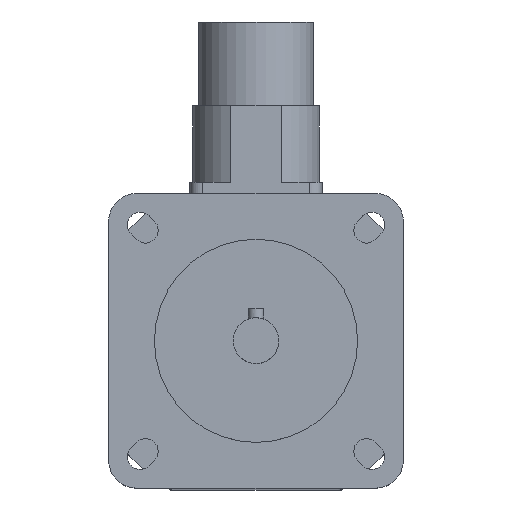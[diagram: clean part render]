
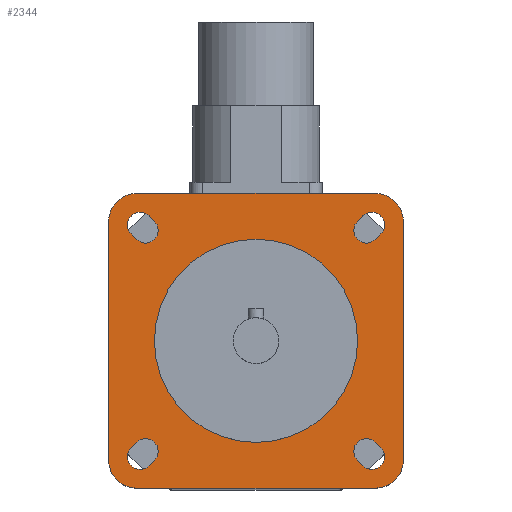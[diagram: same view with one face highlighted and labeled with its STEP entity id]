
A CAD part, top view. The second image highlights one B-rep face of the part: STEP entity #2344.
In plain terms, the highlighted planar face has unit normal (0, 0, 1).
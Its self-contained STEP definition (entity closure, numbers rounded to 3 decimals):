
#28=FACE_BOUND('',#421,.T.);
#29=FACE_BOUND('',#422,.T.);
#30=FACE_BOUND('',#423,.T.);
#31=FACE_BOUND('',#424,.T.);
#32=FACE_BOUND('',#425,.T.);
#46=CIRCLE('',#2435,20.);
#83=CIRCLE('',#2499,2.5);
#87=CIRCLE('',#2506,2.5);
#88=CIRCLE('',#2509,2.5);
#89=CIRCLE('',#2512,2.5);
#99=CIRCLE('',#2527,2.5);
#100=CIRCLE('',#2530,2.5);
#101=CIRCLE('',#2533,2.5);
#102=CIRCLE('',#2536,2.5);
#103=CIRCLE('',#2538,5.5);
#104=CIRCLE('',#2540,5.5);
#105=CIRCLE('',#2542,5.5);
#106=CIRCLE('',#2544,5.5);
#281=FACE_OUTER_BOUND('',#420,.T.);
#420=EDGE_LOOP('',(#1806,#1807,#1808,#1809,#1810,#1811,#1812,#1813));
#421=EDGE_LOOP('',(#1814));
#422=EDGE_LOOP('',(#1815,#1816,#1817,#1818));
#423=EDGE_LOOP('',(#1819,#1820,#1821,#1822));
#424=EDGE_LOOP('',(#1823,#1824,#1825,#1826));
#425=EDGE_LOOP('',(#1827,#1828,#1829,#1830));
#564=LINE('',#3642,#783);
#572=LINE('',#3666,#791);
#576=LINE('',#3676,#795);
#580=LINE('',#3686,#799);
#596=LINE('',#3737,#815);
#598=LINE('',#3743,#817);
#600=LINE('',#3749,#819);
#602=LINE('',#3755,#821);
#611=LINE('',#3783,#830);
#612=LINE('',#3784,#831);
#613=LINE('',#3785,#832);
#614=LINE('',#3786,#833);
#783=VECTOR('',#2885,1.5);
#791=VECTOR('',#2907,1.5);
#795=VECTOR('',#2917,1.5);
#799=VECTOR('',#2927,1.5);
#815=VECTOR('',#2973,1.5);
#817=VECTOR('',#2981,1.5);
#819=VECTOR('',#2989,1.5);
#821=VECTOR('',#2997,1.5);
#830=VECTOR('',#3028,47.);
#831=VECTOR('',#3029,47.);
#832=VECTOR('',#3030,47.);
#833=VECTOR('',#3031,47.);
#956=VERTEX_POINT('',#3463);
#1021=VERTEX_POINT('',#3639);
#1022=VERTEX_POINT('',#3641);
#1023=VERTEX_POINT('',#3645);
#1030=VERTEX_POINT('',#3663);
#1031=VERTEX_POINT('',#3665);
#1032=VERTEX_POINT('',#3669);
#1033=VERTEX_POINT('',#3673);
#1034=VERTEX_POINT('',#3675);
#1035=VERTEX_POINT('',#3679);
#1036=VERTEX_POINT('',#3683);
#1037=VERTEX_POINT('',#3685);
#1038=VERTEX_POINT('',#3689);
#1057=VERTEX_POINT('',#3735);
#1058=VERTEX_POINT('',#3741);
#1059=VERTEX_POINT('',#3747);
#1060=VERTEX_POINT('',#3753);
#1061=VERTEX_POINT('',#3759);
#1062=VERTEX_POINT('',#3761);
#1063=VERTEX_POINT('',#3765);
#1064=VERTEX_POINT('',#3767);
#1065=VERTEX_POINT('',#3771);
#1066=VERTEX_POINT('',#3773);
#1067=VERTEX_POINT('',#3777);
#1068=VERTEX_POINT('',#3779);
#1190=EDGE_CURVE('',#956,#956,#46,.T.);
#1276=EDGE_CURVE('',#1022,#1021,#564,.T.);
#1279=EDGE_CURVE('',#1021,#1023,#83,.T.);
#1288=EDGE_CURVE('',#1031,#1030,#572,.T.);
#1291=EDGE_CURVE('',#1030,#1032,#87,.T.);
#1293=EDGE_CURVE('',#1034,#1033,#576,.T.);
#1296=EDGE_CURVE('',#1033,#1035,#88,.T.);
#1298=EDGE_CURVE('',#1037,#1036,#580,.T.);
#1301=EDGE_CURVE('',#1036,#1038,#89,.T.);
#1324=EDGE_CURVE('',#1035,#1057,#596,.T.);
#1325=EDGE_CURVE('',#1057,#1034,#99,.T.);
#1327=EDGE_CURVE('',#1032,#1058,#598,.T.);
#1328=EDGE_CURVE('',#1058,#1031,#100,.T.);
#1330=EDGE_CURVE('',#1038,#1059,#600,.T.);
#1331=EDGE_CURVE('',#1059,#1037,#101,.T.);
#1333=EDGE_CURVE('',#1023,#1060,#602,.T.);
#1334=EDGE_CURVE('',#1060,#1022,#102,.T.);
#1336=EDGE_CURVE('',#1062,#1061,#103,.T.);
#1339=EDGE_CURVE('',#1064,#1063,#104,.T.);
#1342=EDGE_CURVE('',#1066,#1065,#105,.T.);
#1345=EDGE_CURVE('',#1068,#1067,#106,.T.);
#1347=EDGE_CURVE('',#1061,#1068,#611,.T.);
#1348=EDGE_CURVE('',#1067,#1066,#612,.T.);
#1349=EDGE_CURVE('',#1065,#1064,#613,.T.);
#1350=EDGE_CURVE('',#1063,#1062,#614,.T.);
#1806=ORIENTED_EDGE('',*,*,#1347,.T.);
#1807=ORIENTED_EDGE('',*,*,#1345,.T.);
#1808=ORIENTED_EDGE('',*,*,#1348,.T.);
#1809=ORIENTED_EDGE('',*,*,#1342,.T.);
#1810=ORIENTED_EDGE('',*,*,#1349,.T.);
#1811=ORIENTED_EDGE('',*,*,#1339,.T.);
#1812=ORIENTED_EDGE('',*,*,#1350,.T.);
#1813=ORIENTED_EDGE('',*,*,#1336,.T.);
#1814=ORIENTED_EDGE('',*,*,#1190,.T.);
#1815=ORIENTED_EDGE('',*,*,#1324,.T.);
#1816=ORIENTED_EDGE('',*,*,#1325,.T.);
#1817=ORIENTED_EDGE('',*,*,#1293,.T.);
#1818=ORIENTED_EDGE('',*,*,#1296,.T.);
#1819=ORIENTED_EDGE('',*,*,#1327,.T.);
#1820=ORIENTED_EDGE('',*,*,#1328,.T.);
#1821=ORIENTED_EDGE('',*,*,#1288,.T.);
#1822=ORIENTED_EDGE('',*,*,#1291,.T.);
#1823=ORIENTED_EDGE('',*,*,#1330,.T.);
#1824=ORIENTED_EDGE('',*,*,#1331,.T.);
#1825=ORIENTED_EDGE('',*,*,#1298,.T.);
#1826=ORIENTED_EDGE('',*,*,#1301,.T.);
#1827=ORIENTED_EDGE('',*,*,#1333,.T.);
#1828=ORIENTED_EDGE('',*,*,#1334,.T.);
#1829=ORIENTED_EDGE('',*,*,#1276,.T.);
#1830=ORIENTED_EDGE('',*,*,#1279,.T.);
#2248=PLANE('',#2545);
#2344=ADVANCED_FACE('',(#281,#28,#29,#30,#31,#32),#2248,.T.);
#2435=AXIS2_PLACEMENT_3D('',#3464,#2710,#2711);
#2499=AXIS2_PLACEMENT_3D('',#3647,#2890,#2891);
#2506=AXIS2_PLACEMENT_3D('',#3671,#2912,#2913);
#2509=AXIS2_PLACEMENT_3D('',#3681,#2922,#2923);
#2512=AXIS2_PLACEMENT_3D('',#3691,#2932,#2933);
#2527=AXIS2_PLACEMENT_3D('',#3739,#2976,#2977);
#2530=AXIS2_PLACEMENT_3D('',#3745,#2984,#2985);
#2533=AXIS2_PLACEMENT_3D('',#3751,#2992,#2993);
#2536=AXIS2_PLACEMENT_3D('',#3757,#3000,#3001);
#2538=AXIS2_PLACEMENT_3D('',#3762,#3005,#3006);
#2540=AXIS2_PLACEMENT_3D('',#3768,#3011,#3012);
#2542=AXIS2_PLACEMENT_3D('',#3774,#3017,#3018);
#2544=AXIS2_PLACEMENT_3D('',#3780,#3023,#3024);
#2545=AXIS2_PLACEMENT_3D('',#3782,#3026,#3027);
#2710=DIRECTION('center_axis',(0.,0.,-1.));
#2711=DIRECTION('ref_axis',(-1.,0.,0.));
#2885=DIRECTION('',(-0.707,-0.707,0.));
#2890=DIRECTION('center_axis',(0.,0.,-1.));
#2891=DIRECTION('ref_axis',(0.707,-0.707,0.));
#2907=DIRECTION('',(-0.707,0.707,0.));
#2912=DIRECTION('center_axis',(0.,0.,-1.));
#2913=DIRECTION('ref_axis',(-0.707,-0.707,0.));
#2917=DIRECTION('',(-0.707,-0.707,0.));
#2922=DIRECTION('center_axis',(0.,0.,-1.));
#2923=DIRECTION('ref_axis',(0.707,-0.707,0.));
#2927=DIRECTION('',(-0.707,0.707,0.));
#2932=DIRECTION('center_axis',(0.,0.,-1.));
#2933=DIRECTION('ref_axis',(-0.707,-0.707,0.));
#2973=DIRECTION('',(0.707,0.707,0.));
#2976=DIRECTION('center_axis',(0.,0.,-1.));
#2977=DIRECTION('ref_axis',(-0.707,0.707,0.));
#2981=DIRECTION('',(0.707,-0.707,0.));
#2984=DIRECTION('center_axis',(0.,0.,-1.));
#2985=DIRECTION('ref_axis',(0.707,0.707,0.));
#2989=DIRECTION('',(0.707,-0.707,0.));
#2992=DIRECTION('center_axis',(0.,0.,-1.));
#2993=DIRECTION('ref_axis',(0.707,0.707,0.));
#2997=DIRECTION('',(0.707,0.707,0.));
#3000=DIRECTION('center_axis',(0.,0.,-1.));
#3001=DIRECTION('ref_axis',(-0.707,0.707,0.));
#3005=DIRECTION('center_axis',(0.,0.,1.));
#3006=DIRECTION('ref_axis',(1.,0.,0.));
#3011=DIRECTION('center_axis',(0.,0.,1.));
#3012=DIRECTION('ref_axis',(0.,-1.,0.));
#3017=DIRECTION('center_axis',(0.,0.,1.));
#3018=DIRECTION('ref_axis',(-1.,0.,0.));
#3023=DIRECTION('center_axis',(0.,0.,1.));
#3024=DIRECTION('ref_axis',(0.,1.,0.));
#3026=DIRECTION('center_axis',(0.,0.,1.));
#3027=DIRECTION('ref_axis',(1.,0.,0.));
#3028=DIRECTION('',(-1.,0.,0.));
#3029=DIRECTION('',(0.,-1.,0.));
#3030=DIRECTION('',(1.,0.,0.));
#3031=DIRECTION('',(0.,1.,0.));
#3463=CARTESIAN_POINT('',(20.,0.,187.));
#3464=CARTESIAN_POINT('Origin',(0.,0.,187.));
#3639=CARTESIAN_POINT('',(-21.036,-24.572,187.));
#3641=CARTESIAN_POINT('',(-19.976,-23.511,187.));
#3642=CARTESIAN_POINT('',(-9.634,-13.17,187.));
#3645=CARTESIAN_POINT('',(-24.572,-21.036,187.));
#3647=CARTESIAN_POINT('Origin',(-22.804,-22.804,187.));
#3663=CARTESIAN_POINT('',(-24.572,21.036,187.));
#3665=CARTESIAN_POINT('',(-23.511,19.976,187.));
#3666=CARTESIAN_POINT('',(-13.17,9.634,187.));
#3669=CARTESIAN_POINT('',(-21.036,24.572,187.));
#3671=CARTESIAN_POINT('Origin',(-22.804,22.804,187.));
#3673=CARTESIAN_POINT('',(23.511,19.976,187.));
#3675=CARTESIAN_POINT('',(24.572,21.036,187.));
#3676=CARTESIAN_POINT('',(12.64,9.104,187.));
#3679=CARTESIAN_POINT('',(19.976,23.511,187.));
#3681=CARTESIAN_POINT('Origin',(21.744,21.744,187.));
#3683=CARTESIAN_POINT('',(19.976,-23.511,187.));
#3685=CARTESIAN_POINT('',(21.036,-24.572,187.));
#3686=CARTESIAN_POINT('',(9.104,-12.64,187.));
#3689=CARTESIAN_POINT('',(23.511,-19.976,187.));
#3691=CARTESIAN_POINT('Origin',(21.744,-21.744,187.));
#3735=CARTESIAN_POINT('',(21.036,24.572,187.));
#3737=CARTESIAN_POINT('',(9.634,13.17,187.));
#3739=CARTESIAN_POINT('Origin',(22.804,22.804,187.));
#3741=CARTESIAN_POINT('',(-19.976,23.511,187.));
#3743=CARTESIAN_POINT('',(-9.104,12.64,187.));
#3745=CARTESIAN_POINT('Origin',(-21.744,21.744,187.));
#3747=CARTESIAN_POINT('',(24.572,-21.036,187.));
#3749=CARTESIAN_POINT('',(13.17,-9.634,187.));
#3751=CARTESIAN_POINT('Origin',(22.804,-22.804,187.));
#3753=CARTESIAN_POINT('',(-23.511,-19.976,187.));
#3755=CARTESIAN_POINT('',(-12.64,-9.104,187.));
#3757=CARTESIAN_POINT('Origin',(-21.744,-21.744,187.));
#3759=CARTESIAN_POINT('',(23.5,29.,187.));
#3761=CARTESIAN_POINT('',(29.,23.5,187.));
#3762=CARTESIAN_POINT('Origin',(23.5,23.5,187.));
#3765=CARTESIAN_POINT('',(29.,-23.5,187.));
#3767=CARTESIAN_POINT('',(23.5,-29.,187.));
#3768=CARTESIAN_POINT('Origin',(23.5,-23.5,187.));
#3771=CARTESIAN_POINT('',(-23.5,-29.,187.));
#3773=CARTESIAN_POINT('',(-29.,-23.5,187.));
#3774=CARTESIAN_POINT('Origin',(-23.5,-23.5,187.));
#3777=CARTESIAN_POINT('',(-29.,23.5,187.));
#3779=CARTESIAN_POINT('',(-23.5,29.,187.));
#3780=CARTESIAN_POINT('Origin',(-23.5,23.5,187.));
#3782=CARTESIAN_POINT('Origin',(0.,0.,
187.));
#3783=CARTESIAN_POINT('',(23.5,29.,187.));
#3784=CARTESIAN_POINT('',(-29.,23.5,187.));
#3785=CARTESIAN_POINT('',(-23.5,-29.,187.));
#3786=CARTESIAN_POINT('',(29.,-23.5,187.));
